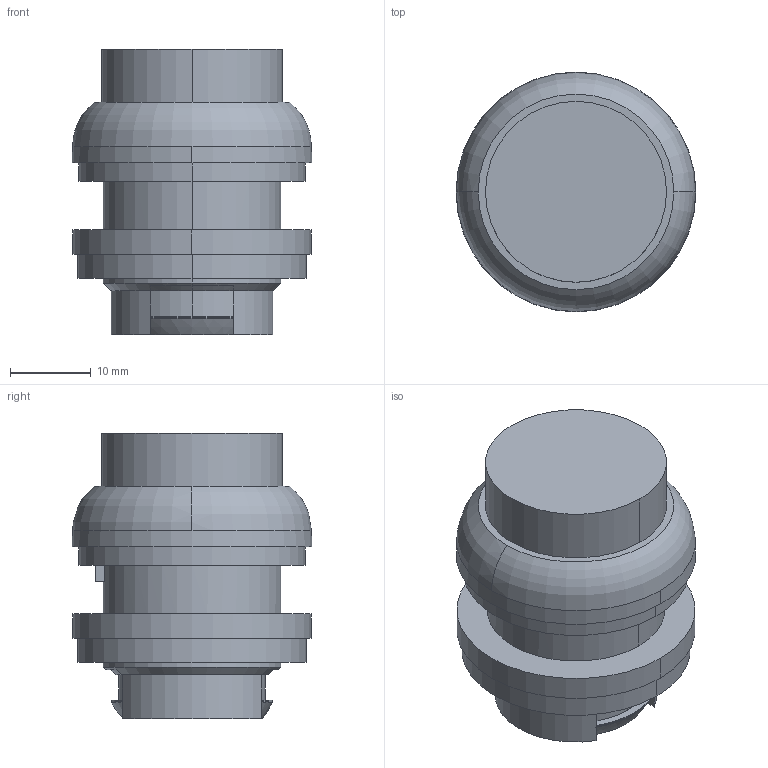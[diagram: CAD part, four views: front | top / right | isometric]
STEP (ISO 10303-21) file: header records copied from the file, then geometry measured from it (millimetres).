
FILE_DESCRIPTION( ( '' ), '1' );
FILE_NAME( '//expscmdclustefs.cadenas.external/client_exchange/iodir/jobs/output/wkb45448911_no0/STEP/216636_2_03.stp', '2012-05-30T14:24:35', ( '' ), ( '' ), ' ', ' ', ' ' );
FILE_SCHEMA( ( 'CONFIG_CONTROL_DESIGN' ) );
Length unit declared in the file: millimetre
Products named in the file (1): 1
Bounding box: 29.7 x 29.7 x 35.4 mm (x, y, z)
Volume: 17141.2 mm3; surface area: 4601.2 mm2
Topology: 1 solids, 1 shells, 66 faces, 170 edges, 112 vertices
Faces by surface type: plane 31, cylinder 18, cone 12, torus 5
Entity records: 2104 total; most frequent: CARTESIAN_POINT 415, DIRECTION 366, ORIENTED_EDGE 340, EDGE_CURVE 170, AXIS2_PLACEMENT_3D 147, VERTEX_POINT 112, CIRCLE 78, EDGE_LOOP 72
